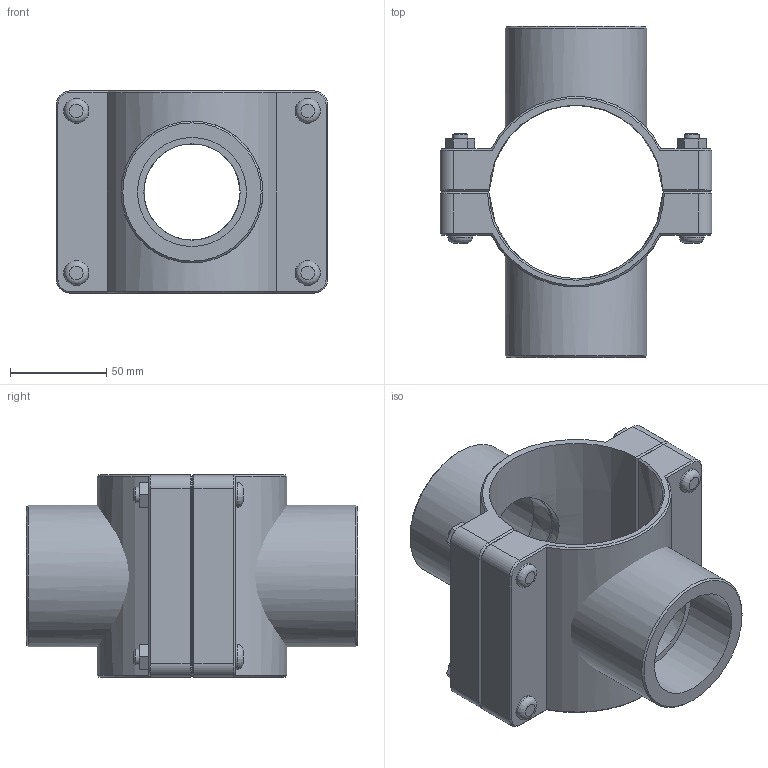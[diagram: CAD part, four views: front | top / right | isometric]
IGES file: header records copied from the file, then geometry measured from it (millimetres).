
Global section: file name: 161760090020_161860090020.ipt; native system: Autodesk Inventor 2015; preprocessor: unknown; author: KIM; date: 20170618.093733; units: millimetre
Bounding box: 141 x 172 x 105 mm (x, y, z)
Volume: 503070.9 mm3; surface area: 127052.5 mm2
Topology: 3 solids, 3 shells, 151 faces, 350 edges, 221 vertices
Faces by surface type: plane 84, cone 26, cylinder 24, revolution 17
Full cylindrical faces by diameter (mm): 8 x4, 13 x8, 73.653 x2
